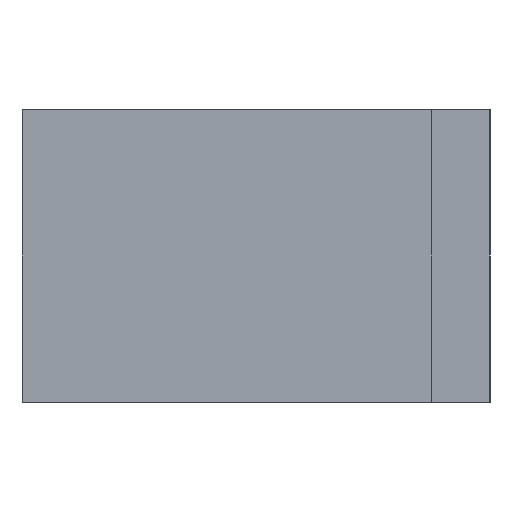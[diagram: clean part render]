
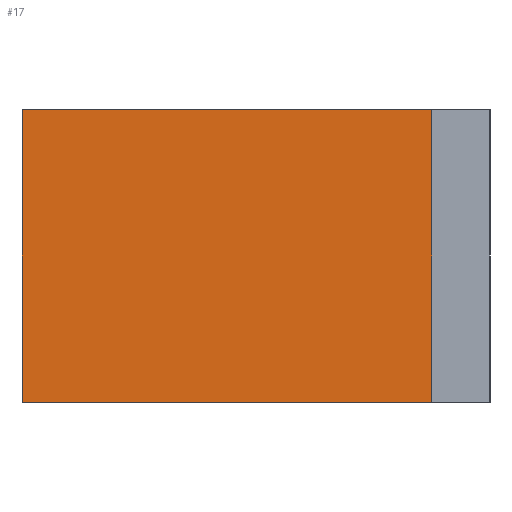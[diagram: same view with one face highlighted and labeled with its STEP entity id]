
A CAD part, left-side view. The second image highlights one B-rep face of the part: STEP entity #17.
In plain terms, the highlighted planar face has unit normal (-1, 0, 0).
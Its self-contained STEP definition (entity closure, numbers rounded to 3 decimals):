
#17 = ADVANCED_FACE('',(#18),#52,.F.);
#18 = FACE_BOUND('',#19,.F.);
#19 = EDGE_LOOP('',(#20,#30,#38,#46));
#20 = ORIENTED_EDGE('',*,*,#21,.F.);
#21 = EDGE_CURVE('',#22,#24,#26,.T.);
#22 = VERTEX_POINT('',#23);
#23 = CARTESIAN_POINT('',(0.,1.,0.));
#24 = VERTEX_POINT('',#25);
#25 = CARTESIAN_POINT('',(0.,1.,5.));
#26 = LINE('',#27,#28);
#27 = CARTESIAN_POINT('',(0.,1.,-0.5));
#28 = VECTOR('',#29,1.);
#29 = DIRECTION('',(0.,0.,1.));
#30 = ORIENTED_EDGE('',*,*,#31,.T.);
#31 = EDGE_CURVE('',#22,#32,#34,.T.);
#32 = VERTEX_POINT('',#33);
#33 = CARTESIAN_POINT('',(0.,8.,0.));
#34 = LINE('',#35,#36);
#35 = CARTESIAN_POINT('',(0.,0.,0.));
#36 = VECTOR('',#37,1.);
#37 = DIRECTION('',(0.,1.,0.));
#38 = ORIENTED_EDGE('',*,*,#39,.T.);
#39 = EDGE_CURVE('',#32,#40,#42,.T.);
#40 = VERTEX_POINT('',#41);
#41 = CARTESIAN_POINT('',(0.,8.,5.));
#42 = LINE('',#43,#44);
#43 = CARTESIAN_POINT('',(0.,8.,0.));
#44 = VECTOR('',#45,1.);
#45 = DIRECTION('',(0.,0.,1.));
#46 = ORIENTED_EDGE('',*,*,#47,.F.);
#47 = EDGE_CURVE('',#24,#40,#48,.T.);
#48 = LINE('',#49,#50);
#49 = CARTESIAN_POINT('',(0.,0.,5.));
#50 = VECTOR('',#51,1.);
#51 = DIRECTION('',(0.,1.,0.));
#52 = PLANE('',#53);
#53 = AXIS2_PLACEMENT_3D('',#54,#55,#56);
#54 = CARTESIAN_POINT('',(0.,0.,0.));
#55 = DIRECTION('',(1.,0.,0.));
#56 = DIRECTION('',(0.,0.,1.));
